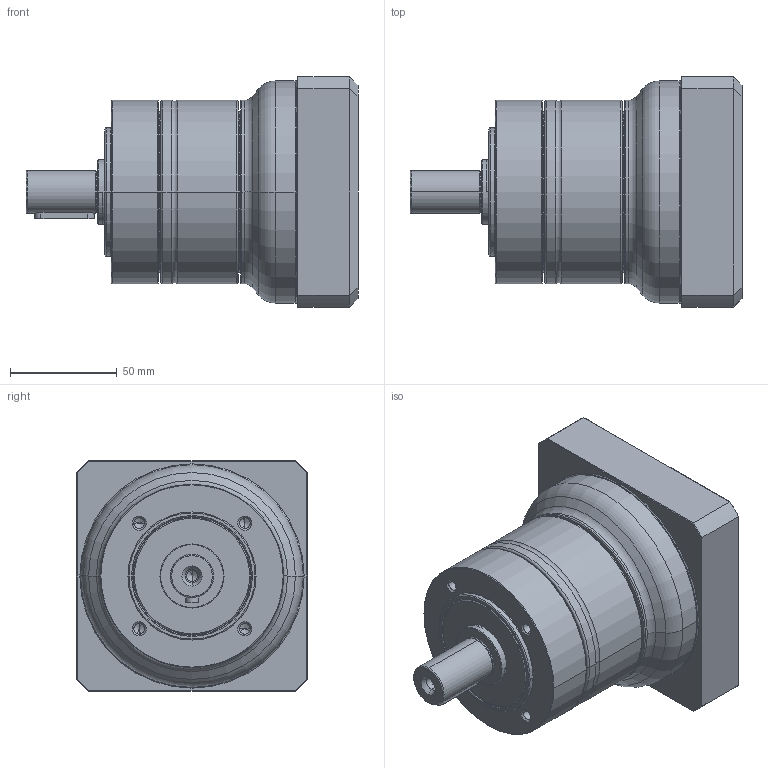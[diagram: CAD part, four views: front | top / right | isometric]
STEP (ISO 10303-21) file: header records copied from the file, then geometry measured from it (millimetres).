
FILE_DESCRIPTION((''),'2;1');
FILE_NAME('PG2-080_1ST_28-P0411600101_ASM','2016-04-12T',('d01943'),(''),'PRO/ENGINEER BY PARAMETRIC TECHNOLOGY CORPORATION, 2008410','PRO/ENGINEER BY PARAMETRIC TECHNOLOGY CORPORATION, 2008410','');
FILE_SCHEMA(('CONFIG_CONTROL_DESIGN'));
Length unit declared in the file: millimetre
Products named in the file (9): P1325310001; P0250300001; P1324300301; P0350301103; P0941303001; P0503600008; P0411600101; P1702500001; PG2-080_1ST_28-P0411600101_ASM
Assembly tree (8 placements, depth 2):
  PG2-080_1ST_28-P0411600101_ASM
    P1325310001
    P0250300001
    P1324300301
    P0350301103
    P0941303001
    P0503600008
    P0411600101
    P1702500001
Bounding box: 155.5 x 108 x 108 mm (x, y, z)
Volume: 641729.9 mm3; surface area: 152494.1 mm2
Topology: 8 solids, 9 shells, 468 faces, 1031 edges, 593 vertices
Faces by surface type: cone 142, cylinder 137, torus 94, plane 79, bspline 16
Entity records: 17452 total; most frequent: CARTESIAN_POINT 6922, DIRECTION 2397, ORIENTED_EDGE 1994, AXIS2_PLACEMENT_3D 1026, EDGE_CURVE 997, VERTEX_POINT 593, CIRCLE 557, EDGE_LOOP 532
